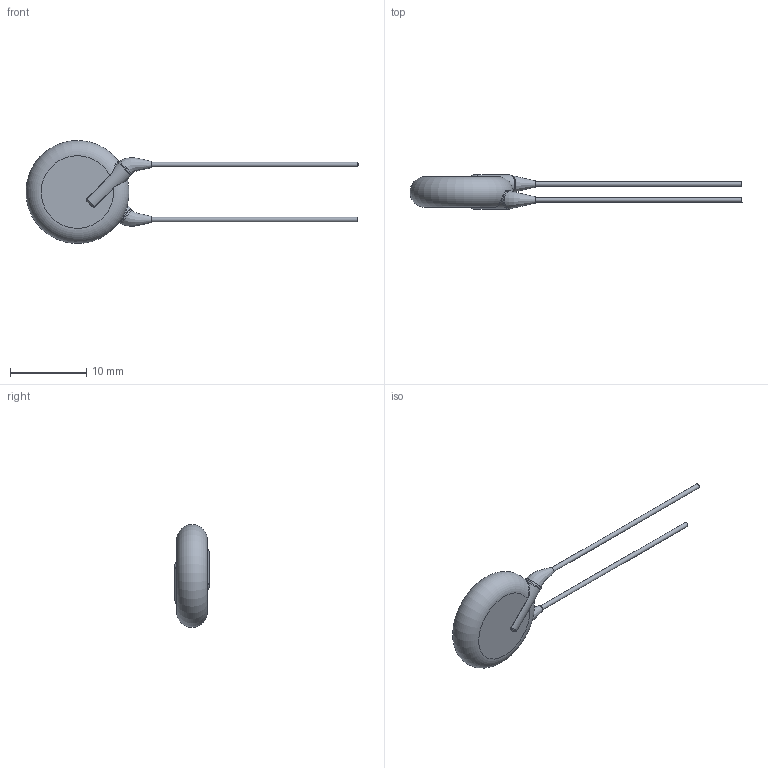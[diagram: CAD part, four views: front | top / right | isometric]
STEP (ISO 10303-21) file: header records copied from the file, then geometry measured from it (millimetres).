
FILE_DESCRIPTION(/* description */ (''),/* implementation_level */ '2;1');
FILE_NAME(/* name */ 'I:\Marketing\M6t1\3D-Models\Zchng-Werk-3\Upload for homepage\Roederstein\VKO\Y5U_300-440\VKO472MCQCF0KR\VKO472MCQCF0KR.stp',/* time_stamp */ '2018-03-19T14:36:25+01:00',/* author */ ('sheinrich'),/* organization */ (''),/* preprocessor_version */ 'ST-DEVELOPER v16.1',/* originating_system */ 'Autodesk Inventor 2016',/* authorisation */ '');
FILE_SCHEMA (('AUTOMOTIVE_DESIGN { 1 0 10303 214 3 1 1 }'));
Length unit declared in the file: centimetre
Products named in the file (1): VKO472MCQCF0KR
Bounding box: 43.48 x 4.5 x 13.47 mm (x, y, z)
Volume: 545.3 mm3; surface area: 522.9 mm2
Topology: 1 solids, 1 shells, 37 faces, 83 edges, 49 vertices
Faces by surface type: bspline 16, cylinder 8, torus 7, plane 6
Full cylindrical faces by diameter (mm): 0.6 x2
Entity records: 2137 total; most frequent: CARTESIAN_POINT 1368, ORIENTED_EDGE 156, DIRECTION 112, EDGE_CURVE 78, AXIS2_PLACEMENT_3D 52, VERTEX_POINT 48, EDGE_LOOP 42, B_SPLINE_CURVE_WITH_KNOTS 40
